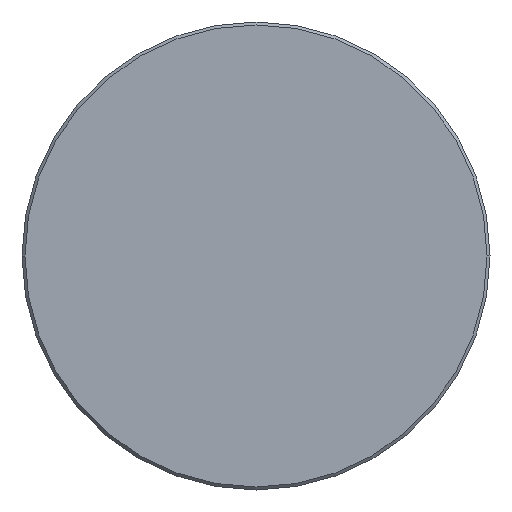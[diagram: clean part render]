
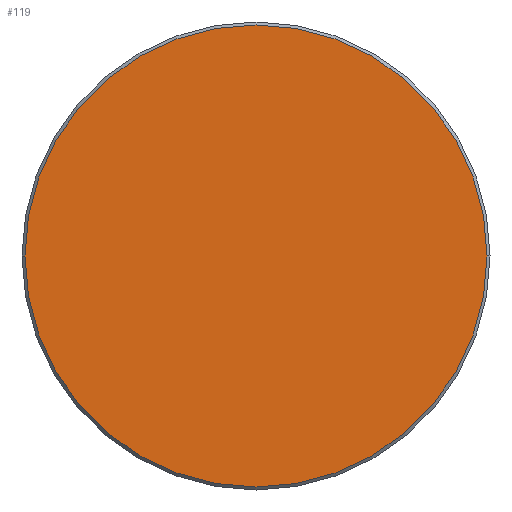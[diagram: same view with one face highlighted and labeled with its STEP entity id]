
A CAD part, left-side view. The second image highlights one B-rep face of the part: STEP entity #119.
In plain terms, the highlighted planar face has unit normal (-1, 0, 0).
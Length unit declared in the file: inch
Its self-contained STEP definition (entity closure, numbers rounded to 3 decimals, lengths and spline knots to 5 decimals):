
#8 = DIRECTION ( 'NONE',  ( 0., -1., 0. ) ) ;
#10 = FACE_OUTER_BOUND ( 'NONE', #88, .T. ) ;
#14 = AXIS2_PLACEMENT_3D ( 'NONE', #273, #156, #92 ) ;
#77 = ORIENTED_EDGE ( 'NONE', *, *, #368, .T. ) ;
#88 = EDGE_LOOP ( 'NONE', ( #306, #77 ) ) ;
#92 = DIRECTION ( 'NONE',  ( 0., -1., 0. ) ) ;
#119 = ADVANCED_FACE ( 'NONE', ( #10 ), #269, .T. ) ;
#130 = EDGE_CURVE ( 'NONE', #145, #200, #199, .T. ) ;
#133 = AXIS2_PLACEMENT_3D ( 'NONE', #228, #204, #8 ) ;
#145 = VERTEX_POINT ( 'NONE', #274 ) ;
#156 = DIRECTION ( 'NONE',  ( -1., 0., 0. ) ) ;
#183 = DIRECTION ( 'NONE',  ( 0., -1., 0. ) ) ;
#184 = AXIS2_PLACEMENT_3D ( 'NONE', #243, #350, #183 ) ;
#190 = CARTESIAN_POINT ( 'NONE',  ( 0., -0.3085, 0. ) ) ;
#199 = CIRCLE ( 'NONE', #14, 0.3085 ) ;
#200 = VERTEX_POINT ( 'NONE', #190 ) ;
#204 = DIRECTION ( 'NONE',  ( -1., 0., 0. ) ) ;
#228 = CARTESIAN_POINT ( 'NONE',  ( 0., 0., 0. ) ) ;
#243 = CARTESIAN_POINT ( 'NONE',  ( 0., 0., 0. ) ) ;
#269 = PLANE ( 'NONE',  #184 ) ;
#273 = CARTESIAN_POINT ( 'NONE',  ( 0., 0., 0. ) ) ;
#274 = CARTESIAN_POINT ( 'NONE',  ( 0., 0.3085, 0. ) ) ;
#306 = ORIENTED_EDGE ( 'NONE', *, *, #130, .T. ) ;
#350 = DIRECTION ( 'NONE',  ( -1., 0., 0. ) ) ;
#354 = CIRCLE ( 'NONE', #133, 0.3085 ) ;
#368 = EDGE_CURVE ( 'NONE', #200, #145, #354, .T. ) ;
